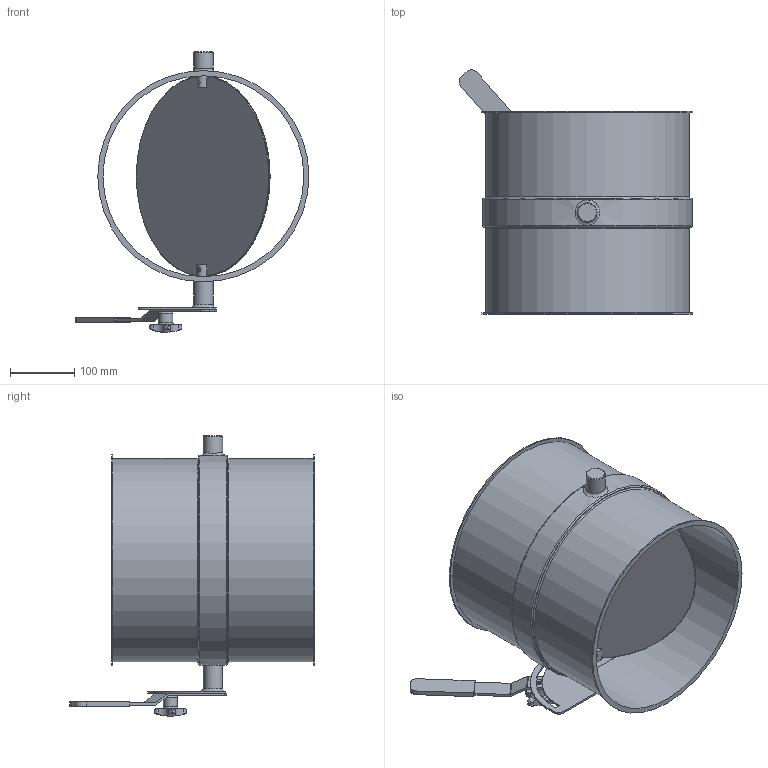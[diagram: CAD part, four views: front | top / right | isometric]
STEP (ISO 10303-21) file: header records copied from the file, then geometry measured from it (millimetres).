
FILE_DESCRIPTION((''),'2;1');
FILE_NAME('U:\Wolfgang\Marcel-3D\fertig\Kapitel 8\3121076.stp','2012-01-13T11:20:04',('iwienholt'),(''),'Autodesk Inventor 2010','Autodesk Inventor 2010','');
FILE_SCHEMA(('AUTOMOTIVE_DESIGN { 1 0 10303 214 1 1 1 1 }'));
Length unit declared in the file: millimetre
Products named in the file (7): 3121076; Bolzen D20; ganter_din_6335-ku-50-m10-k; Umstellsegment D20; Scheibe315b; Griff D20b; 3121076-1
Assembly tree (6 placements, depth 2):
  3121076
    Bolzen D20
    ganter_din_6335-ku-50-m10-k
    Umstellsegment D20
    Scheibe315b
    Griff D20b
    3121076-1
Bounding box: 363.4 x 379.98 x 436 mm (x, y, z)
Volume: 1221872.2 mm3; surface area: 962225.4 mm2
Topology: 6 solids, 6 shells, 137 faces, 334 edges, 222 vertices
Faces by surface type: cylinder 54, plane 53, torus 13, bspline 11, cone 5, sphere 1
Full cylindrical faces by diameter (mm): 6 x4, 8 x1, 9 x1, 10 x2, 16 x1, 20 x8, 22 x1, 30 x3, 312 x3, 313 x1, 316 x2, 321 x1, 322 x1, 326 x1, 328 x2
Entity records: 5145 total; most frequent: CARTESIAN_POINT 1968, DIRECTION 626, ORIENTED_EDGE 532, AXIS2_PLACEMENT_3D 270, EDGE_CURVE 266, EDGE_LOOP 228, VERTEX_POINT 206, FACE_OUTER_BOUND 137
